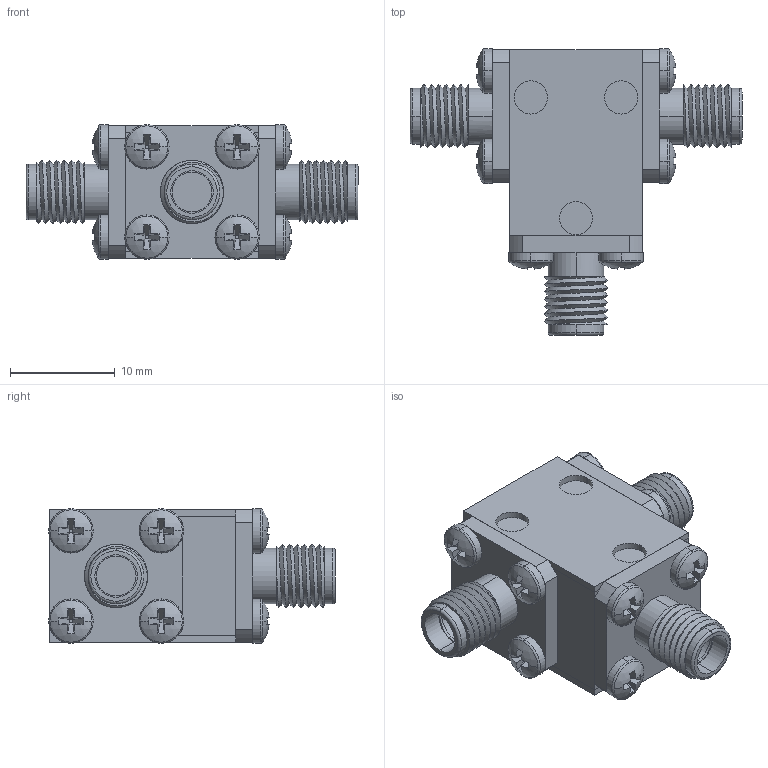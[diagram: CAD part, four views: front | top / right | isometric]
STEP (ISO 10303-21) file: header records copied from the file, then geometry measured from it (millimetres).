
FILE_DESCRIPTION (( 'STEP AP214' ), '1' );
FILE_NAME ('Package 5 Circ FFF.step', '2021-12-01T21:00:55', ( '' ), ( '' ), 'SwSTEP 2.0', 'SolidWorks 2016', '' );
FILE_SCHEMA (( 'AUTOMOTIVE_DESIGN' ));
Length unit declared in the file: inch
Products named in the file (6): Package 5; Package Size 5; 0.5 x 0.5 Blank Template; Delta SMA-Female 0.500 flange Threaded; Package 5 Circ FFF; pan cross head_ai_CR-PHMS 0.086-56x0.125x0.125-N
Assembly tree (18 placements, depth 2):
  Package 5 Circ FFF
    Package Size 5
    Package 5
    pan cross head_ai_CR-PHMS 0.086-56x0.125x0.125-N  x12
    Delta SMA-Female 0.500 flange Threaded  x3
    0.5 x 0.5 Blank Template
Bounding box: 31.75 x 27.39 x 12.88 mm (x, y, z)
Volume: 4046.1 mm3; surface area: 5379.8 mm2
Topology: 18 solids, 18 shells, 431 faces, 981 edges, 607 vertices
Faces by surface type: plane 238, cylinder 130, torus 30, sphere 24, bspline 9
Entity records: 4071 total; most frequent: CARTESIAN_POINT 1256, DIRECTION 581, ORIENTED_EDGE 482, EDGE_CURVE 241, AXIS2_PLACEMENT_3D 230, VERTEX_POINT 155, EDGE_LOOP 126, VECTOR 121
